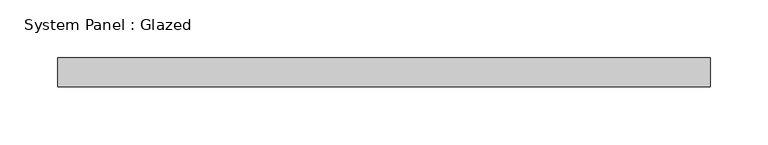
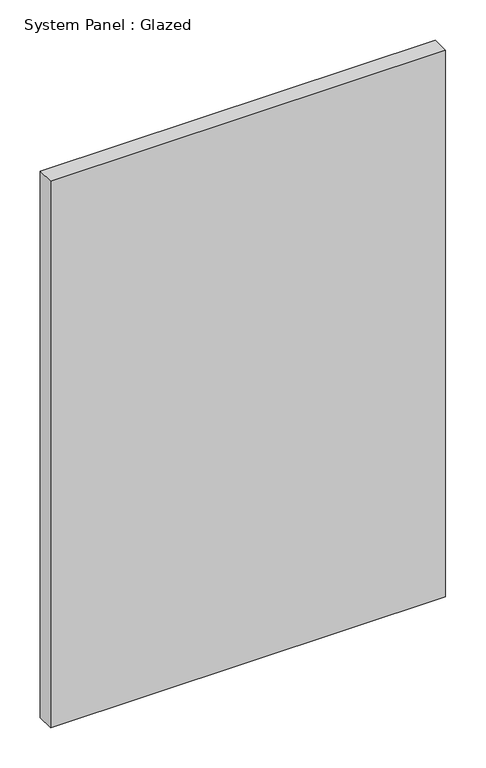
"""IFC4 building model written with IfcOpenShell, lengths in millimetres: plate geometry, System Panel : Glazed."""

from ifc_helpers import new_model, si_unit, origin, origin_with_axes, place, context, project, spatial, polyline, outline, extrude, source, transform, mapped, element, save


def system_panel_glazed_9a752446(model_context):
    return source(origin(), model_context, "Body", "SweptSolid", [
        extrude(outline(polyline([(282.5, 24.5), (-282.5, 24.5), (-282.5, 49.5), (282.5, 49.5), (282.5, 24.5)])), origin_with_axes(), (0.0, 0.0, 1.0), 825.0),
    ])


if __name__ == "__main__":
    model = new_model("IFC4")
    model_context = context("Model", 3, world=origin())
    ifc_project = project(units=[si_unit("LENGTHUNIT", "METRE", prefix="MILLI")], contexts=[model_context])
    site = spatial("IfcSite", under=ifc_project)
    building = spatial("IfcBuilding", under=site)
    placement = place(None, origin())
    system_panel_glazed_shape = system_panel_glazed_9a752446(model_context)
    element("IfcPlate", 1, ObjectType="System Panel : Glazed", at=placement, inside=building, context=model_context, shape_type="MappedRepresentation", body=[
        mapped(system_panel_glazed_shape, transform((0.0, 0.0, 0.0), x_axis=(1.0, 0.0, 0.0), y_axis=(0.0, 1.0, 0.0), z_axis=(0.0, 0.0, 1.0))),
    ])
    save(model, "model.ifc")
